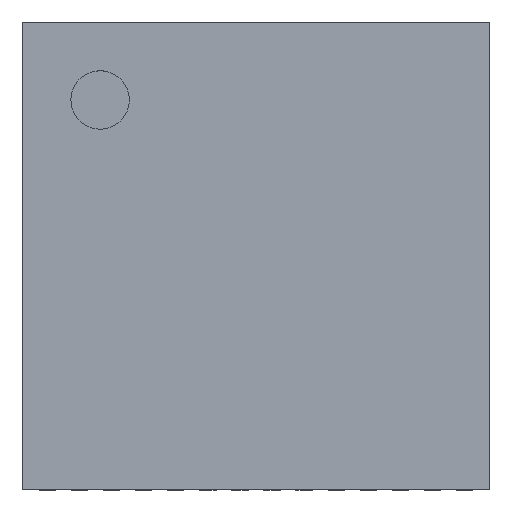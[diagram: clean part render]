
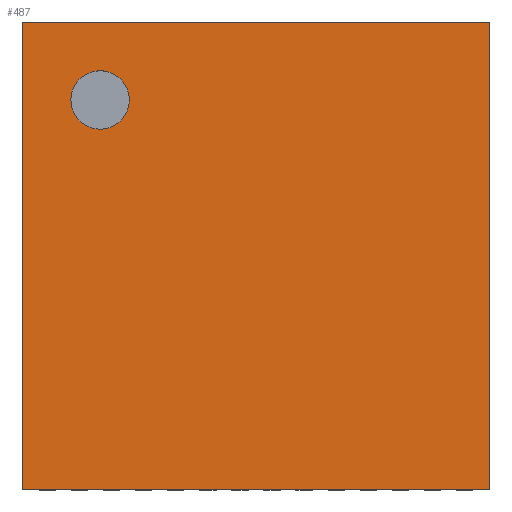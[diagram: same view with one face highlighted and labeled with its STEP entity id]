
A CAD part, top view. The second image highlights one B-rep face of the part: STEP entity #487.
In plain terms, the highlighted planar face has unit normal (0, 0, 1).
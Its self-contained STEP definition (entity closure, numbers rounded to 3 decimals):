
#298 = VERTEX_POINT('',#299);
#299 = CARTESIAN_POINT('',(0.,0.,0.8));
#306 = PLANE('',#307);
#307 = AXIS2_PLACEMENT_3D('',#308,#309,#310);
#308 = CARTESIAN_POINT('',(0.,0.,0.));
#309 = DIRECTION('',(1.,0.,-0.));
#310 = DIRECTION('',(0.,0.,1.));
#318 = PLANE('',#319);
#319 = AXIS2_PLACEMENT_3D('',#320,#321,#322);
#320 = CARTESIAN_POINT('',(0.,0.,0.));
#321 = DIRECTION('',(-0.,1.,0.));
#322 = DIRECTION('',(0.,0.,1.));
#359 = VERTEX_POINT('',#360);
#360 = CARTESIAN_POINT('',(0.,5.1,0.8));
#374 = PLANE('',#375);
#375 = AXIS2_PLACEMENT_3D('',#376,#377,#378);
#376 = CARTESIAN_POINT('',(0.,5.1,0.));
#377 = DIRECTION('',(-0.,1.,0.));
#378 = DIRECTION('',(0.,0.,1.));
#386 = EDGE_CURVE('',#298,#359,#387,.T.);
#387 = SURFACE_CURVE('',#388,(#392,#399),.PCURVE_S1.);
#388 = LINE('',#389,#390);
#389 = CARTESIAN_POINT('',(0.,0.,0.8));
#390 = VECTOR('',#391,1.);
#391 = DIRECTION('',(-0.,1.,0.));
#392 = PCURVE('',#306,#393);
#393 = DEFINITIONAL_REPRESENTATION('',(#394),#398);
#394 = LINE('',#395,#396);
#395 = CARTESIAN_POINT('',(0.8,0.));
#396 = VECTOR('',#397,1.);
#397 = DIRECTION('',(0.,-1.));
#398 = ( GEOMETRIC_REPRESENTATION_CONTEXT(2) 
PARAMETRIC_REPRESENTATION_CONTEXT() REPRESENTATION_CONTEXT('2D SPACE',''
  ) );
#399 = PCURVE('',#400,#405);
#400 = PLANE('',#401);
#401 = AXIS2_PLACEMENT_3D('',#402,#403,#404);
#402 = CARTESIAN_POINT('',(0.,0.,0.8));
#403 = DIRECTION('',(0.,0.,1.));
#404 = DIRECTION('',(1.,0.,-0.));
#405 = DEFINITIONAL_REPRESENTATION('',(#406),#410);
#406 = LINE('',#407,#408);
#407 = CARTESIAN_POINT('',(0.,0.));
#408 = VECTOR('',#409,1.);
#409 = DIRECTION('',(0.,1.));
#410 = ( GEOMETRIC_REPRESENTATION_CONTEXT(2) 
PARAMETRIC_REPRESENTATION_CONTEXT() REPRESENTATION_CONTEXT('2D SPACE',''
  ) );
#439 = EDGE_CURVE('',#298,#440,#442,.T.);
#440 = VERTEX_POINT('',#441);
#441 = CARTESIAN_POINT('',(5.1,0.,0.8));
#442 = SURFACE_CURVE('',#443,(#447,#454),.PCURVE_S1.);
#443 = LINE('',#444,#445);
#444 = CARTESIAN_POINT('',(0.,0.,0.8));
#445 = VECTOR('',#446,1.);
#446 = DIRECTION('',(1.,0.,-0.));
#447 = PCURVE('',#318,#448);
#448 = DEFINITIONAL_REPRESENTATION('',(#449),#453);
#449 = LINE('',#450,#451);
#450 = CARTESIAN_POINT('',(0.8,0.));
#451 = VECTOR('',#452,1.);
#452 = DIRECTION('',(0.,1.));
#453 = ( GEOMETRIC_REPRESENTATION_CONTEXT(2) 
PARAMETRIC_REPRESENTATION_CONTEXT() REPRESENTATION_CONTEXT('2D SPACE',''
  ) );
#454 = PCURVE('',#400,#455);
#455 = DEFINITIONAL_REPRESENTATION('',(#456),#460);
#456 = LINE('',#457,#458);
#457 = CARTESIAN_POINT('',(0.,0.));
#458 = VECTOR('',#459,1.);
#459 = DIRECTION('',(1.,0.));
#460 = ( GEOMETRIC_REPRESENTATION_CONTEXT(2) 
PARAMETRIC_REPRESENTATION_CONTEXT() REPRESENTATION_CONTEXT('2D SPACE',''
  ) );
#476 = PLANE('',#477);
#477 = AXIS2_PLACEMENT_3D('',#478,#479,#480);
#478 = CARTESIAN_POINT('',(5.1,0.,0.));
#479 = DIRECTION('',(1.,0.,-0.));
#480 = DIRECTION('',(0.,0.,1.));
#487 = ADVANCED_FACE('',(#488,#536),#400,.T.);
#488 = FACE_BOUND('',#489,.T.);
#489 = EDGE_LOOP('',(#490,#491,#492,#515));
#490 = ORIENTED_EDGE('',*,*,#386,.F.);
#491 = ORIENTED_EDGE('',*,*,#439,.T.);
#492 = ORIENTED_EDGE('',*,*,#493,.T.);
#493 = EDGE_CURVE('',#440,#494,#496,.T.);
#494 = VERTEX_POINT('',#495);
#495 = CARTESIAN_POINT('',(5.1,5.1,0.8));
#496 = SURFACE_CURVE('',#497,(#501,#508),.PCURVE_S1.);
#497 = LINE('',#498,#499);
#498 = CARTESIAN_POINT('',(5.1,0.,0.8));
#499 = VECTOR('',#500,1.);
#500 = DIRECTION('',(-0.,1.,0.));
#501 = PCURVE('',#400,#502);
#502 = DEFINITIONAL_REPRESENTATION('',(#503),#507);
#503 = LINE('',#504,#505);
#504 = CARTESIAN_POINT('',(5.1,0.));
#505 = VECTOR('',#506,1.);
#506 = DIRECTION('',(0.,1.));
#507 = ( GEOMETRIC_REPRESENTATION_CONTEXT(2) 
PARAMETRIC_REPRESENTATION_CONTEXT() REPRESENTATION_CONTEXT('2D SPACE',''
  ) );
#508 = PCURVE('',#476,#509);
#509 = DEFINITIONAL_REPRESENTATION('',(#510),#514);
#510 = LINE('',#511,#512);
#511 = CARTESIAN_POINT('',(0.8,0.));
#512 = VECTOR('',#513,1.);
#513 = DIRECTION('',(0.,-1.));
#514 = ( GEOMETRIC_REPRESENTATION_CONTEXT(2) 
PARAMETRIC_REPRESENTATION_CONTEXT() REPRESENTATION_CONTEXT('2D SPACE',''
  ) );
#515 = ORIENTED_EDGE('',*,*,#516,.F.);
#516 = EDGE_CURVE('',#359,#494,#517,.T.);
#517 = SURFACE_CURVE('',#518,(#522,#529),.PCURVE_S1.);
#518 = LINE('',#519,#520);
#519 = CARTESIAN_POINT('',(0.,5.1,0.8));
#520 = VECTOR('',#521,1.);
#521 = DIRECTION('',(1.,0.,-0.));
#522 = PCURVE('',#400,#523);
#523 = DEFINITIONAL_REPRESENTATION('',(#524),#528);
#524 = LINE('',#525,#526);
#525 = CARTESIAN_POINT('',(0.,5.1));
#526 = VECTOR('',#527,1.);
#527 = DIRECTION('',(1.,0.));
#528 = ( GEOMETRIC_REPRESENTATION_CONTEXT(2) 
PARAMETRIC_REPRESENTATION_CONTEXT() REPRESENTATION_CONTEXT('2D SPACE',''
  ) );
#529 = PCURVE('',#374,#530);
#530 = DEFINITIONAL_REPRESENTATION('',(#531),#535);
#531 = LINE('',#532,#533);
#532 = CARTESIAN_POINT('',(0.8,0.));
#533 = VECTOR('',#534,1.);
#534 = DIRECTION('',(0.,1.));
#535 = ( GEOMETRIC_REPRESENTATION_CONTEXT(2) 
PARAMETRIC_REPRESENTATION_CONTEXT() REPRESENTATION_CONTEXT('2D SPACE',''
  ) );
#536 = FACE_BOUND('',#537,.T.);
#537 = EDGE_LOOP('',(#538));
#538 = ORIENTED_EDGE('',*,*,#539,.F.);
#539 = EDGE_CURVE('',#540,#540,#542,.T.);
#540 = VERTEX_POINT('',#541);
#541 = CARTESIAN_POINT('',(1.169,4.25,0.8));
#542 = SURFACE_CURVE('',#543,(#548,#555),.PCURVE_S1.);
#543 = CIRCLE('',#544,0.319);
#544 = AXIS2_PLACEMENT_3D('',#545,#546,#547);
#545 = CARTESIAN_POINT('',(0.85,4.25,0.8));
#546 = DIRECTION('',(0.,0.,1.));
#547 = DIRECTION('',(1.,0.,-0.));
#548 = PCURVE('',#400,#549);
#549 = DEFINITIONAL_REPRESENTATION('',(#550),#554);
#550 = CIRCLE('',#551,0.319);
#551 = AXIS2_PLACEMENT_2D('',#552,#553);
#552 = CARTESIAN_POINT('',(0.85,4.25));
#553 = DIRECTION('',(1.,0.));
#554 = ( GEOMETRIC_REPRESENTATION_CONTEXT(2) 
PARAMETRIC_REPRESENTATION_CONTEXT() REPRESENTATION_CONTEXT('2D SPACE',''
  ) );
#555 = PCURVE('',#556,#561);
#556 = CYLINDRICAL_SURFACE('',#557,0.319);
#557 = AXIS2_PLACEMENT_3D('',#558,#559,#560);
#558 = CARTESIAN_POINT('',(0.85,4.25,0.7));
#559 = DIRECTION('',(0.,0.,1.));
#560 = DIRECTION('',(1.,0.,-0.));
#561 = DEFINITIONAL_REPRESENTATION('',(#562),#566);
#562 = LINE('',#563,#564);
#563 = CARTESIAN_POINT('',(0.,0.1));
#564 = VECTOR('',#565,1.);
#565 = DIRECTION('',(1.,0.));
#566 = ( GEOMETRIC_REPRESENTATION_CONTEXT(2) 
PARAMETRIC_REPRESENTATION_CONTEXT() REPRESENTATION_CONTEXT('2D SPACE',''
  ) );
